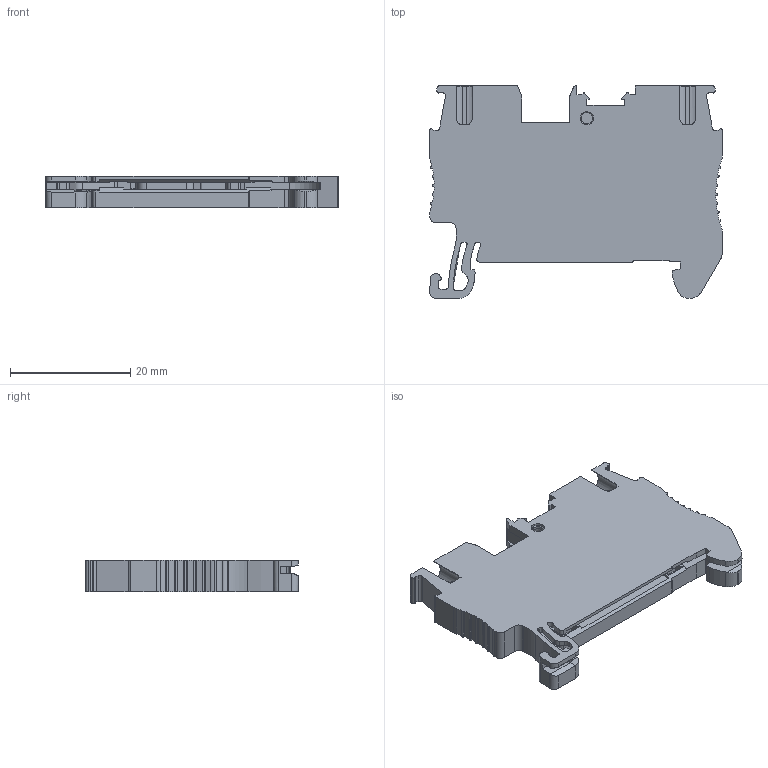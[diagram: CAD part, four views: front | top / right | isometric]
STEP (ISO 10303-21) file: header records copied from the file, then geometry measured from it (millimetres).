
FILE_DESCRIPTION((''),'2;1');
FILE_NAME('UPT-2-5PEASSY','2024-03-29T15:57:40',('Administrator'),(''),'CREO PARAMETRIC BY PTC INC, 2018050','CREO PARAMETRIC BY PTC INC, 2018050','');
FILE_SCHEMA(('CONFIG_CONTROL_DESIGN'));
Length unit declared in the file: millimetre
Products named in the file (1): UPT-2-5PEASSY
Bounding box: 48.6 x 35.3 x 5.2 mm (x, y, z)
Volume: 5341.4 mm3; surface area: 6297.7 mm2
Topology: 1 solids, 4 shells, 672 faces, 2071 edges, 1396 vertices
Faces by surface type: plane 414, cylinder 228, cone 16, torus 14
Entity records: 23531 total; most frequent: CARTESIAN_POINT 4736, ORIENTED_EDGE 4126, DIRECTION 3786, EDGE_CURVE 2063, VECTOR 1412, LINE 1412, VERTEX_POINT 1396, AXIS2_PLACEMENT_3D 1187
